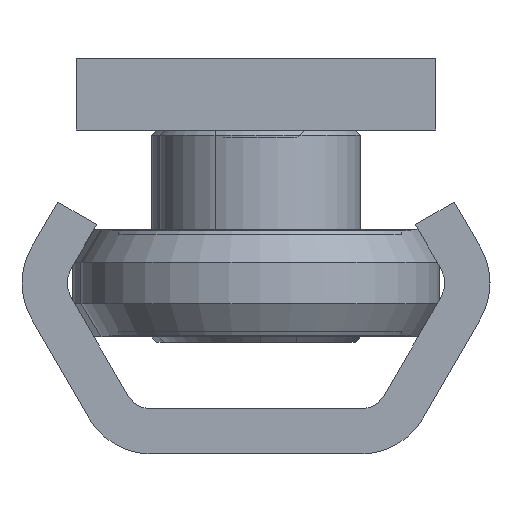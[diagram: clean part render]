
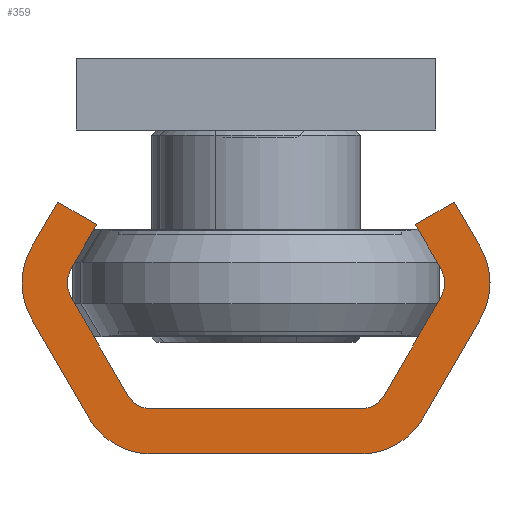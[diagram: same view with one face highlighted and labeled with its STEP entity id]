
A CAD part, left-side view. The second image highlights one B-rep face of the part: STEP entity #359.
In plain terms, the highlighted planar face has unit normal (-1, 0, 0).
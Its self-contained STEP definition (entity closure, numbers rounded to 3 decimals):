
#359 = ADVANCED_FACE( '', ( #791 ), #792, .F. );
#791 = FACE_OUTER_BOUND( '', #1521, .T. );
#792 = PLANE( '', #1522 );
#1521 = EDGE_LOOP( '', ( #2384, #2385, #2386, #2387, #2388, #2389, #2390, #2391, #2392, #2393, #2394, #2395, #2396, #2397, #2398, #2399, #2400, #2401, #2402, #2403 ) );
#1522 = AXIS2_PLACEMENT_3D( '', #2404, #2405, #2406 );
#2384 = ORIENTED_EDGE( '', *, *, #3596, .F. );
#2385 = ORIENTED_EDGE( '', *, *, #3597, .F. );
#2386 = ORIENTED_EDGE( '', *, *, #3598, .F. );
#2387 = ORIENTED_EDGE( '', *, *, #3599, .F. );
#2388 = ORIENTED_EDGE( '', *, *, #3600, .F. );
#2389 = ORIENTED_EDGE( '', *, *, #3601, .F. );
#2390 = ORIENTED_EDGE( '', *, *, #3602, .F. );
#2391 = ORIENTED_EDGE( '', *, *, #3552, .T. );
#2392 = ORIENTED_EDGE( '', *, *, #3603, .F. );
#2393 = ORIENTED_EDGE( '', *, *, #3604, .T. );
#2394 = ORIENTED_EDGE( '', *, *, #3605, .F. );
#2395 = ORIENTED_EDGE( '', *, *, #3606, .T. );
#2396 = ORIENTED_EDGE( '', *, *, #3607, .F. );
#2397 = ORIENTED_EDGE( '', *, *, #3608, .T. );
#2398 = ORIENTED_EDGE( '', *, *, #3609, .F. );
#2399 = ORIENTED_EDGE( '', *, *, #3610, .F. );
#2400 = ORIENTED_EDGE( '', *, *, #3565, .F. );
#2401 = ORIENTED_EDGE( '', *, *, #3611, .F. );
#2402 = ORIENTED_EDGE( '', *, *, #3612, .F. );
#2403 = ORIENTED_EDGE( '', *, *, #3613, .F. );
#2404 = CARTESIAN_POINT( '', ( 0., -5.825, -4. ) );
#2405 = DIRECTION( '', ( 1., 0., 0. ) );
#2406 = DIRECTION( '', ( 0., 0., -1. ) );
#3552 = EDGE_CURVE( '', #4062, #4063, #4064, .T. );
#3565 = EDGE_CURVE( '', #4084, #4085, #4086, .T. );
#3596 = EDGE_CURVE( '', #4141, #4142, #4143, .T. );
#3597 = EDGE_CURVE( '', #4144, #4141, #4145, .T. );
#3598 = EDGE_CURVE( '', #4146, #4144, #4147, .T. );
#3599 = EDGE_CURVE( '', #4148, #4146, #4149, .T. );
#3600 = EDGE_CURVE( '', #4150, #4148, #4151, .T. );
#3601 = EDGE_CURVE( '', #4152, #4150, #4153, .T. );
#3602 = EDGE_CURVE( '', #4062, #4152, #4154, .T. );
#3603 = EDGE_CURVE( '', #4155, #4063, #4156, .T. );
#3604 = EDGE_CURVE( '', #4155, #4157, #4158, .T. );
#3605 = EDGE_CURVE( '', #4159, #4157, #4160, .T. );
#3606 = EDGE_CURVE( '', #4159, #4161, #4162, .T. );
#3607 = EDGE_CURVE( '', #4163, #4161, #4164, .T. );
#3608 = EDGE_CURVE( '', #4163, #4165, #4166, .T. );
#3609 = EDGE_CURVE( '', #4167, #4165, #4168, .T. );
#3610 = EDGE_CURVE( '', #4085, #4167, #4169, .T. );
#3611 = EDGE_CURVE( '', #4170, #4084, #4171, .T. );
#3612 = EDGE_CURVE( '', #4172, #4170, #4173, .T. );
#3613 = EDGE_CURVE( '', #4142, #4172, #4174, .T. );
#4062 = VERTEX_POINT( '', #4778 );
#4063 = VERTEX_POINT( '', #4779 );
#4064 = CIRCLE( '', #4780, 1.5 );
#4084 = VERTEX_POINT( '', #4807 );
#4085 = VERTEX_POINT( '', #4808 );
#4086 = LINE( '', #4809, #4810 );
#4141 = VERTEX_POINT( '', #4878 );
#4142 = VERTEX_POINT( '', #4879 );
#4143 = LINE( '', #4880, #4881 );
#4144 = VERTEX_POINT( '', #4882 );
#4145 = CIRCLE( '', #4883, 4. );
#4146 = VERTEX_POINT( '', #4884 );
#4147 = LINE( '', #4885, #4886 );
#4148 = VERTEX_POINT( '', #4887 );
#4149 = CIRCLE( '', #4888, 4. );
#4150 = VERTEX_POINT( '', #4889 );
#4151 = LINE( '', #4890, #4891 );
#4152 = VERTEX_POINT( '', #4892 );
#4153 = LINE( '', #4893, #4894 );
#4154 = LINE( '', #4895, #4896 );
#4155 = VERTEX_POINT( '', #4897 );
#4156 = LINE( '', #4898, #4899 );
#4157 = VERTEX_POINT( '', #4900 );
#4158 = CIRCLE( '', #4901, 1.5 );
#4159 = VERTEX_POINT( '', #4902 );
#4160 = LINE( '', #4903, #4904 );
#4161 = VERTEX_POINT( '', #4905 );
#4162 = CIRCLE( '', #4906, 1.5 );
#4163 = VERTEX_POINT( '', #4907 );
#4164 = LINE( '', #4908, #4909 );
#4165 = VERTEX_POINT( '', #4910 );
#4166 = CIRCLE( '', #4911, 1.5 );
#4167 = VERTEX_POINT( '', #4912 );
#4168 = LINE( '', #4913, #4914 );
#4169 = LINE( '', #4915, #4916 );
#4170 = VERTEX_POINT( '', #4917 );
#4171 = CIRCLE( '', #4918, 4. );
#4172 = VERTEX_POINT( '', #4919 );
#4173 = LINE( '', #4920, #4921 );
#4174 = CIRCLE( '', #4922, 4. );
#4778 = CARTESIAN_POINT( '', ( 0., 10.299, -10.25 ) );
#4779 = CARTESIAN_POINT( '', ( 0., 10.299, -8.75 ) );
#4780 = AXIS2_PLACEMENT_3D( '', #5605, #5606, #5607 );
#4807 = CARTESIAN_POINT( '', ( 0., -12.464, -11.5 ) );
#4808 = CARTESIAN_POINT( '', ( 0., -11.021, -14. ) );
#4809 = CARTESIAN_POINT( '', ( 0., -12.464, -11.5 ) );
#4810 = VECTOR( '', #5621, 1000. );
#4878 = CARTESIAN_POINT( '', ( 0., 5.825, 0. ) );
#4879 = CARTESIAN_POINT( '', ( 0., -5.825, 0. ) );
#4880 = CARTESIAN_POINT( '', ( 0., 5.825, 0. ) );
#4881 = VECTOR( '', #5677, 1000. );
#4882 = CARTESIAN_POINT( '', ( 0., 9.289, -2. ) );
#4883 = AXIS2_PLACEMENT_3D( '', #5678, #5679, #5680 );
#4884 = CARTESIAN_POINT( '', ( 0., 12.464, -7.5 ) );
#4885 = CARTESIAN_POINT( '', ( 0., 12.464, -7.5 ) );
#4886 = VECTOR( '', #5681, 1000. );
#4887 = CARTESIAN_POINT( '', ( 0., 12.464, -11.5 ) );
#4888 = AXIS2_PLACEMENT_3D( '', #5682, #5683, #5684 );
#4889 = CARTESIAN_POINT( '', ( 0., 11.021, -14. ) );
#4890 = CARTESIAN_POINT( '', ( 0., 11.021, -14. ) );
#4891 = VECTOR( '', #5685, 1000. );
#4892 = CARTESIAN_POINT( '', ( 0., 8.856, -12.75 ) );
#4893 = CARTESIAN_POINT( '', ( 0., 8.856, -12.75 ) );
#4894 = VECTOR( '', #5686, 1000. );
#4895 = CARTESIAN_POINT( '', ( 0., 10.299, -10.25 ) );
#4896 = VECTOR( '', #5687, 1000. );
#4897 = CARTESIAN_POINT( '', ( 0., 7.124, -3.25 ) );
#4898 = CARTESIAN_POINT( '', ( 0., 7.124, -3.25 ) );
#4899 = VECTOR( '', #5688, 1000. );
#4900 = CARTESIAN_POINT( '', ( 0., 5.825, -2.5 ) );
#4901 = AXIS2_PLACEMENT_3D( '', #5689, #5690, #5691 );
#4902 = CARTESIAN_POINT( '', ( 0., -5.825, -2.5 ) );
#4903 = CARTESIAN_POINT( '', ( 0., -5.825, -2.5 ) );
#4904 = VECTOR( '', #5692, 1000. );
#4905 = CARTESIAN_POINT( '', ( 0., -7.124, -3.25 ) );
#4906 = AXIS2_PLACEMENT_3D( '', #5693, #5694, #5695 );
#4907 = CARTESIAN_POINT( '', ( 0., -10.299, -8.75 ) );
#4908 = CARTESIAN_POINT( '', ( 0., -10.299, -8.75 ) );
#4909 = VECTOR( '', #5696, 1000. );
#4910 = CARTESIAN_POINT( '', ( 0., -10.299, -10.25 ) );
#4911 = AXIS2_PLACEMENT_3D( '', #5697, #5698, #5699 );
#4912 = CARTESIAN_POINT( '', ( 0., -8.856, -12.75 ) );
#4913 = CARTESIAN_POINT( '', ( 0., -8.856, -12.75 ) );
#4914 = VECTOR( '', #5700, 1000. );
#4915 = CARTESIAN_POINT( '', ( 0., -11.021, -14. ) );
#4916 = VECTOR( '', #5701, 1000. );
#4917 = CARTESIAN_POINT( '', ( 0., -12.464, -7.5 ) );
#4918 = AXIS2_PLACEMENT_3D( '', #5702, #5703, #5704 );
#4919 = CARTESIAN_POINT( '', ( 0., -9.289, -2. ) );
#4920 = CARTESIAN_POINT( '', ( 0., -9.289, -2. ) );
#4921 = VECTOR( '', #5705, 1000. );
#4922 = AXIS2_PLACEMENT_3D( '', #5706, #5707, #5708 );
#5605 = CARTESIAN_POINT( '', ( 0., 9., -9.5 ) );
#5606 = DIRECTION( '', ( 1., 0., 0. ) );
#5607 = DIRECTION( '', ( 0., 0., -1. ) );
#5621 = DIRECTION( '', ( 0., 0.5, -0.866 ) );
#5677 = DIRECTION( '', ( 0., -1., 0. ) );
#5678 = CARTESIAN_POINT( '', ( 0., 5.825, -4. ) );
#5679 = DIRECTION( '', ( 1., 0., 0. ) );
#5680 = DIRECTION( '', ( 0., 0., -1. ) );
#5681 = DIRECTION( '', ( 0., -0.5, 0.866 ) );
#5682 = CARTESIAN_POINT( '', ( 0., 9., -9.5 ) );
#5683 = DIRECTION( '', ( 1., 0., 0. ) );
#5684 = DIRECTION( '', ( 0., 0., -1. ) );
#5685 = DIRECTION( '', ( 0., 0.5, 0.866 ) );
#5686 = DIRECTION( '', ( 0., 0.866, -0.5 ) );
#5687 = DIRECTION( '', ( 0., -0.5, -0.866 ) );
#5688 = DIRECTION( '', ( 0., 0.5, -0.866 ) );
#5689 = CARTESIAN_POINT( '', ( 0., 5.825, -4. ) );
#5690 = DIRECTION( '', ( 1., 0., 0. ) );
#5691 = DIRECTION( '', ( 0., 0., -1. ) );
#5692 = DIRECTION( '', ( 0., 1., 0. ) );
#5693 = CARTESIAN_POINT( '', ( 0., -5.825, -4. ) );
#5694 = DIRECTION( '', ( 1., 0., 0. ) );
#5695 = DIRECTION( '', ( 0., 0., -1. ) );
#5696 = DIRECTION( '', ( 0., 0.5, 0.866 ) );
#5697 = CARTESIAN_POINT( '', ( 0., -9., -9.5 ) );
#5698 = DIRECTION( '', ( 1., 0., 0. ) );
#5699 = DIRECTION( '', ( 0., 0., -1. ) );
#5700 = DIRECTION( '', ( 0., -0.5, 0.866 ) );
#5701 = DIRECTION( '', ( 0., 0.866, 0.5 ) );
#5702 = CARTESIAN_POINT( '', ( 0., -9., -9.5 ) );
#5703 = DIRECTION( '', ( 1., 0., 0. ) );
#5704 = DIRECTION( '', ( 0., 0., -1. ) );
#5705 = DIRECTION( '', ( 0., -0.5, -0.866 ) );
#5706 = CARTESIAN_POINT( '', ( 0., -5.825, -4. ) );
#5707 = DIRECTION( '', ( 1., 0., 0. ) );
#5708 = DIRECTION( '', ( 0., 0., -1. ) );
